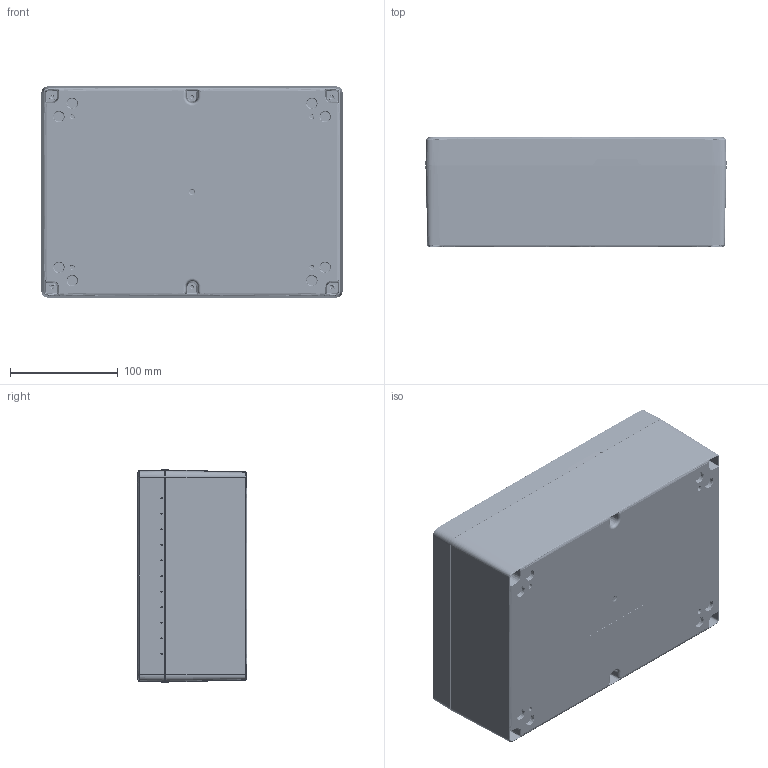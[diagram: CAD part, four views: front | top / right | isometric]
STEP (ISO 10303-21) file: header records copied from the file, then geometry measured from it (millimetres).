
FILE_DESCRIPTION (( 'STEP AP214' ), '1' );
FILE_NAME ('HN-88-11.STEP', '2026-02-24T16:24:04', ( '' ), ( '' ), 'SwSTEP 2.0', 'SolidWorks 2025', '' );
FILE_SCHEMA (( 'AUTOMOTIVE_DESIGN' ));
Length unit declared in the file: inch
Products named in the file (9): HN-88B_HN-88BP-01; HN-88BN_HN-88BPN-01; SCREWS-054_DEFAULT; HN-88-11; HN-88G_default; HN-88CG_HN-88CG-01; INSERTS-3_INSERTS-3; LABEL-107-01; HN-88C_HN-88C-01
Assembly tree (18 placements, depth 3):
  HN-88-11
    HN-88B_HN-88BP-01
      HN-88BN_HN-88BPN-01
      INSERTS-3_INSERTS-3  x6
      LABEL-107-01
    HN-88CG_HN-88CG-01
      HN-88C_HN-88C-01
      HN-88G_default
    SCREWS-054_DEFAULT  x6
Bounding box: 279.4 x 101.96 x 196.85 mm (x, y, z)
Volume: 736763.6 mm3; surface area: 455503.2 mm2
Topology: 15 solids, 17 shells, 5867 faces, 14298 edges, 8443 vertices
Faces by surface type: torus 1592, cone 1474, bspline 962, cylinder 894, plane 843, sphere 102
Entity records: 192815 total; most frequent: CARTESIAN_POINT 82784, ORIENTED_EDGE 24482, DIRECTION 21831, EDGE_CURVE 12244, AXIS2_PLACEMENT_3D 9615, VERTEX_POINT 7333, CIRCLE 5391, EDGE_LOOP 5108
